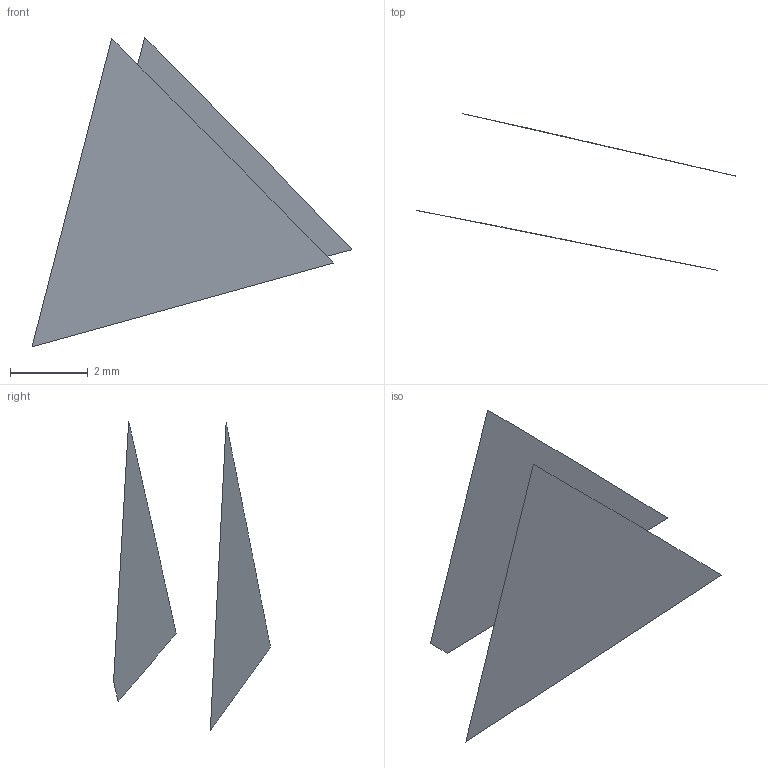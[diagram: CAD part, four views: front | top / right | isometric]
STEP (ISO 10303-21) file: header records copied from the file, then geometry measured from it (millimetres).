
FILE_DESCRIPTION(('FreeCAD Model'),'2;1');
FILE_NAME('Open CASCADE Shape Model','2022-05-21T09:28:00',('FreeCAD'),( 'FreeCAD'),'Open CASCADE STEP processor 7.5','FreeCAD','Unknown');
FILE_SCHEMA(('AUTOMOTIVE_DESIGN { 1 0 10303 214 1 1 1 1 }'));
Length unit declared in the file: millimetre
Products named in the file (3): Open CASCADE STEP translator 7.5 1; Open CASCADE STEP translator 7.5 1.1; Open CASCADE STEP translator 7.5 1.2
Assembly tree (2 placements, depth 2):
  Open CASCADE STEP translator 7.5 1
    Open CASCADE STEP translator 7.5 1.1
    Open CASCADE STEP translator 7.5 1.2
Bounding box: 8.24 x 4.04 x 7.97 mm (x, y, z)
Surface area: 54.7 mm2 (no closed solid volume)
Topology: 0 solids, 2 shells, 2 faces, 32 edges, 32 vertices
Faces by surface type: bspline 2
Entity records: 488 total; most frequent: CARTESIAN_POINT 171, B_SPLINE_CURVE_WITH_KNOTS 64, ORIENTED_EDGE 32, EDGE_CURVE 32, VERTEX_POINT 32, SURFACE_CURVE 32, PCURVE 32, DEFINITIONAL_REPRESENTATION 32
